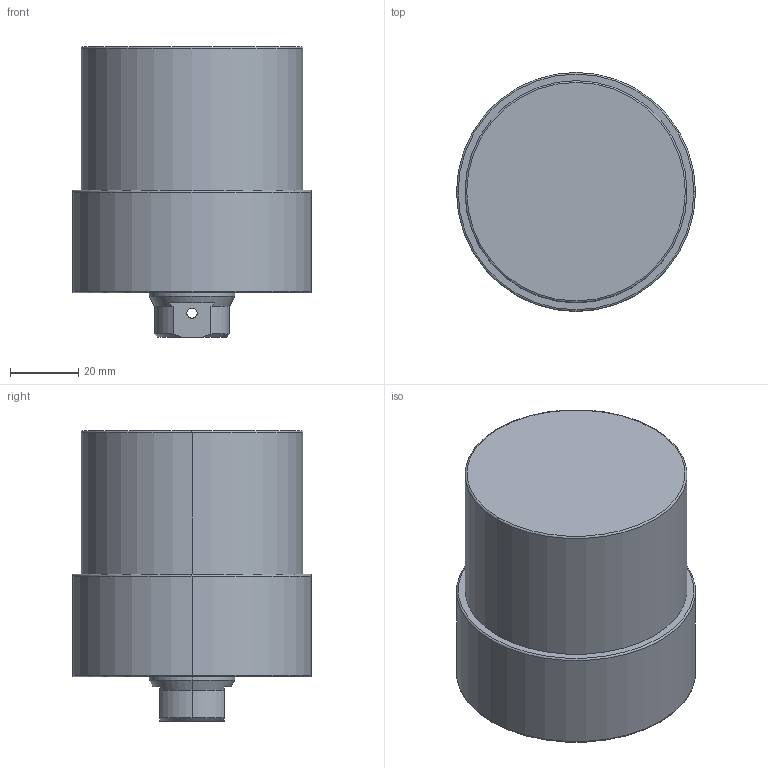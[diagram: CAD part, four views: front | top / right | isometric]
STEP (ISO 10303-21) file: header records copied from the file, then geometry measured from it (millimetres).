
FILE_DESCRIPTION (( 'STEP AP203' ), '1' );
FILE_NAME ('CLLU-065GB-025.STEP', '2020-01-06T08:39:57', ( '' ), ( '' ), 'SwSTEP 2.0', 'SolidWorks 2015', '' );
FILE_SCHEMA (( 'CONFIG_CONTROL_DESIGN' ));
Length unit declared in the file: millimetre
Products named in the file (1): CLLU-065GB-025
Bounding box: 70 x 70 x 85 mm (x, y, z)
Volume: 255296.7 mm3; surface area: 25797 mm2
Topology: 1 solids, 1 shells, 68 faces, 157 edges, 90 vertices
Faces by surface type: cylinder 27, cone 25, plane 10, torus 6
Entity records: 2051 total; most frequent: CARTESIAN_POINT 438, DIRECTION 352, ORIENTED_EDGE 294, AXIS2_PLACEMENT_3D 148, EDGE_CURVE 147, VERTEX_POINT 90, EDGE_LOOP 81, CIRCLE 79
